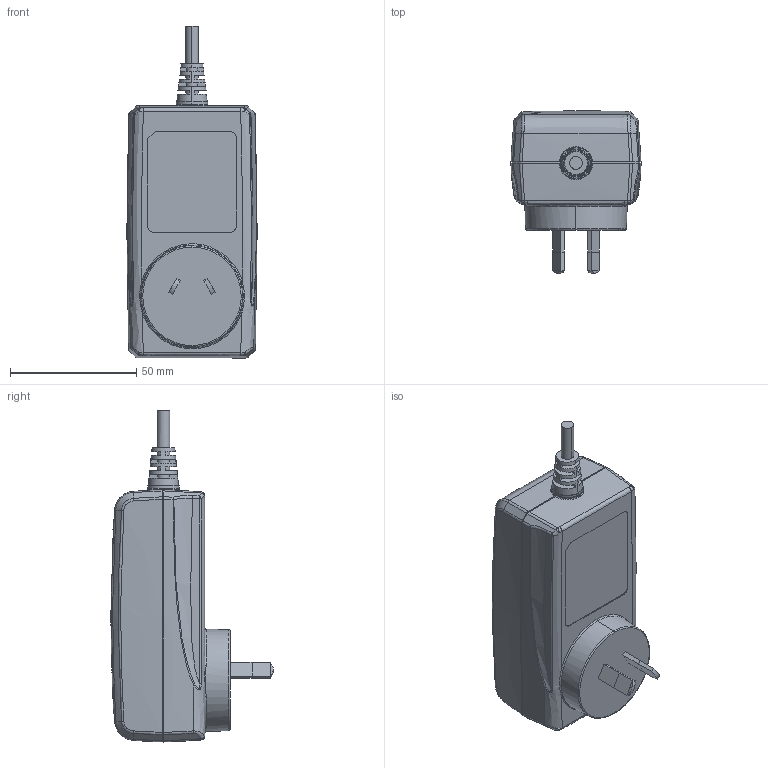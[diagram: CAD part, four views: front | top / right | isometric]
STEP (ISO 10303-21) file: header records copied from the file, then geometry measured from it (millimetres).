
FILE_DESCRIPTION(/* description */ (''),/* implementation_level */ '2;1');
FILE_NAME(/* name */ 'TP7_澳規',/* time_stamp */ '2015-03-02T17:49:35+08:00',/* author */ (''),/* organization */ (''),/* preprocessor_version */ 'ST-DEVELOPER v15',/* originating_system */ '',/* authorisation */ '');
FILE_SCHEMA (('AUTOMOTIVE_DESIGN_CC2'));
Length unit declared in the file: millimetre
Products named in the file (1): Document
Bounding box: 51.56 x 64.26 x 131.42 mm (x, y, z)
Volume: 1717.5 mm3; surface area: 32474.7 mm2
Topology: 1 solids, 10 shells, 436 faces, 1147 edges, 729 vertices
Faces by surface type: bspline 436
Entity records: 91537 total; most frequent: CARTESIAN_POINT 77001, B_SPLINE_CURVE_WITH_KNOTS 3077, ORIENTED_EDGE 2221, PCURVE 2221, DEFINITIONAL_REPRESENTATION 2221, SURFACE_CURVE 1133, EDGE_CURVE 1133, VERTEX_POINT 729
